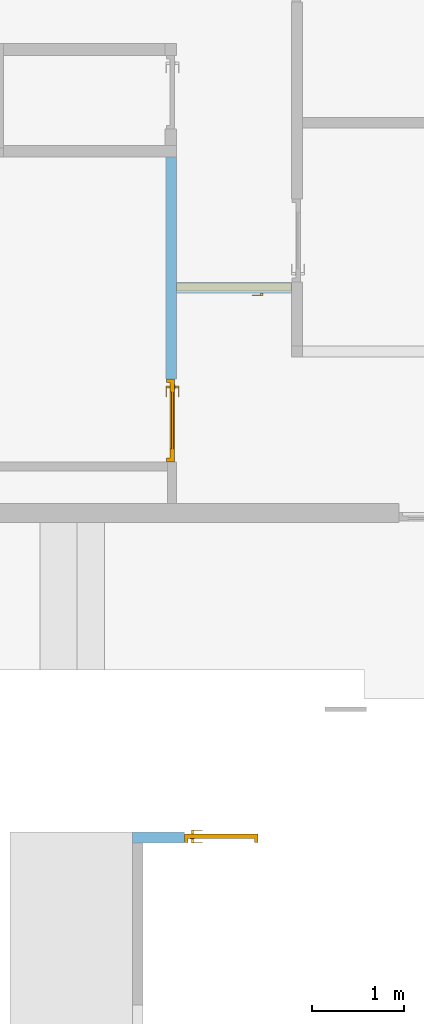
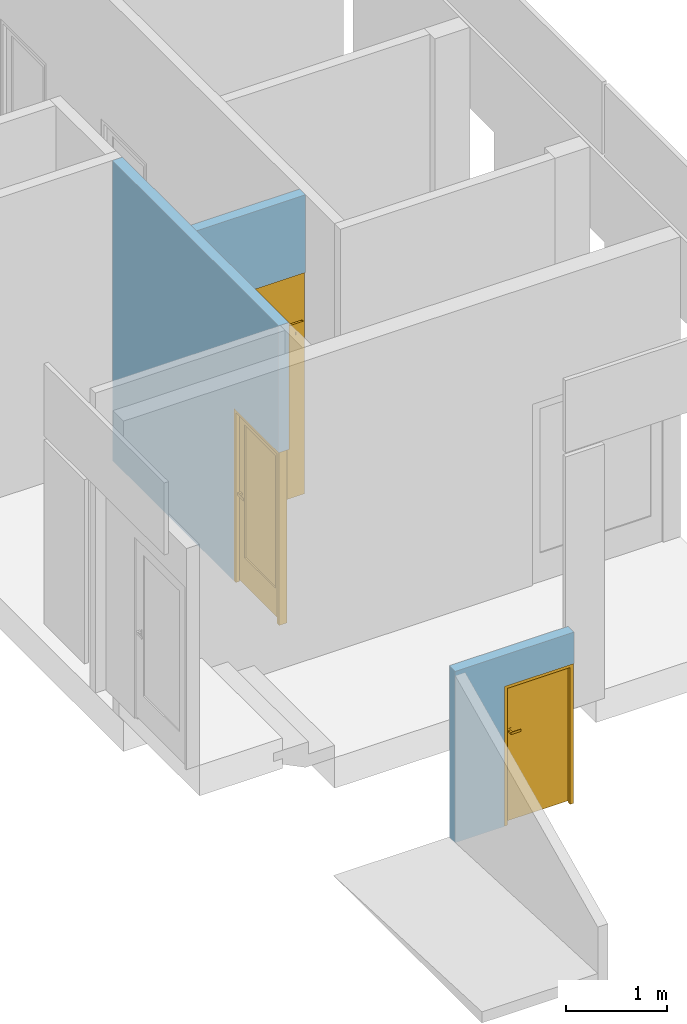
"""IFC2X3 building model written with IfcOpenShell, lengths in millimetres."""

from ifc_helpers import new_model, entity, si_unit, converted_unit, derived_unit, direction, frame, frame_2d, origin, place, context, subcontext, project, spatial, rectangle, extrude, faceted_brep, source, transform, mapped, material, material_list, layer, layer_set, layer_usage, type_object, type_shapes, element, fill, save


model = new_model("IFC2X3")

# Units and contexts
model_context = context("Model", 3, precision=0.01, world=origin(), true_north=direction((6.12303176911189e-17, 1.0)))
body_context = subcontext(model_context, "Body", "Model", "MODEL_VIEW")
ifc_project = project(units=[si_unit("LENGTHUNIT", "METRE", prefix="MILLI"), si_unit("AREAUNIT", "SQUARE_METRE"), si_unit("VOLUMEUNIT", "CUBIC_METRE"), converted_unit("PLANEANGLEUNIT", "DEGREE", entity("IfcRatioMeasure", 0.0174532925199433), si_unit("PLANEANGLEUNIT", "RADIAN"), dimensions=[0, 0, 0, 0, 0, 0, 0]), si_unit("MASSUNIT", "GRAM", prefix="KILO"), derived_unit("MASSDENSITYUNIT", [(si_unit("MASSUNIT", "GRAM", prefix="KILO"), 1), (si_unit("LENGTHUNIT", "METRE"), -3)]), si_unit("TIMEUNIT", "SECOND"), si_unit("FREQUENCYUNIT", "HERTZ"), si_unit("THERMODYNAMICTEMPERATUREUNIT", "DEGREE_CELSIUS"), derived_unit("THERMALTRANSMITTANCEUNIT", [(si_unit("MASSUNIT", "GRAM", prefix="KILO"), 1), (si_unit("THERMODYNAMICTEMPERATUREUNIT", "KELVIN"), -1), (si_unit("TIMEUNIT", "SECOND"), -3)]), derived_unit("VOLUMETRICFLOWRATEUNIT", [(si_unit("LENGTHUNIT", "METRE"), 3), (si_unit("TIMEUNIT", "SECOND"), -1)]), si_unit("ELECTRICCURRENTUNIT", "AMPERE"), si_unit("ELECTRICVOLTAGEUNIT", "VOLT"), si_unit("POWERUNIT", "WATT"), si_unit("FORCEUNIT", "NEWTON", prefix="KILO"), si_unit("ILLUMINANCEUNIT", "LUX"), si_unit("LUMINOUSFLUXUNIT", "LUMEN"), si_unit("LUMINOUSINTENSITYUNIT", "CANDELA"), derived_unit("USERDEFINED", [(si_unit("MASSUNIT", "GRAM", prefix="KILO"), -1), (si_unit("LENGTHUNIT", "METRE"), -2), (si_unit("TIMEUNIT", "SECOND"), 3), (si_unit("LUMINOUSFLUXUNIT", "LUMEN"), 1)]), derived_unit("LINEARVELOCITYUNIT", [(si_unit("LENGTHUNIT", "METRE"), 1), (si_unit("TIMEUNIT", "SECOND"), -1)]), si_unit("PRESSUREUNIT", "PASCAL"), derived_unit("USERDEFINED", [(si_unit("LENGTHUNIT", "METRE"), -2), (si_unit("MASSUNIT", "GRAM", prefix="KILO"), 1), (si_unit("TIMEUNIT", "SECOND"), -2)])], contexts=[model_context])

# Site, building, storey
site_placement = place(None, frame((-151.875543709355, 2715.0, 0.0)))
site = spatial("IfcSite", under=ifc_project, at=site_placement, Name="Surface", CompositionType="ELEMENT")
building_placement = place(site_placement, origin())
building = spatial("IfcBuilding", under=site, at=building_placement, CompositionType="ELEMENT")
storey_1_placement = place(building_placement, frame((0.0, 0.0, -135.0)))
storey_1 = spatial("IfcBuildingStorey", under=building, at=storey_1_placement, Name="uus 1 korrus", CompositionType="ELEMENT", Elevation=-134.99999999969)

# Wall, openings, door
ifc_material_1 = material(Name="__Kips GN13_tava")
ifc_layer_1 = layer(ifc_material_1, 12.5)
ifc_layer_2 = layer(ifc_material_1, 12.5)
ifc_material_2 = material(Name="__Soojustus EPS")
ifc_layer_3 = layer(ifc_material_2, 66.0)
ifc_layer_4 = layer(ifc_material_1, 12.5)
ifc_layer_5 = layer(ifc_material_1, 12.5)
ifc_layer_set = layer_set([ifc_layer_1, ifc_layer_2, ifc_layer_3, ifc_layer_4, ifc_layer_5], Name="Basic Wall:SS-3_Kipssein tava ruumide vahel")
ifc_layer_usage_1 = layer_usage(ifc_layer_set, "AXIS2", "NEGATIVE", 58.0)
wall_type = type_object("IfcWallType", Name="Basic Wall:SS-3_Kipssein tava ruumide vahel", PredefinedType="STANDARD", material=ifc_layer_set)
wall_1_placement = place(storey_1_placement, frame((34223.0849816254, 15470.0, 0.0), z_axis=(0.0, 0.0, 1.0), x_axis=(0.0, 1.0, 0.0)))
wall_1 = element("IfcWallStandardCase", 1, at=wall_1_placement, inside=storey_1, type_object=wall_type, material=ifc_layer_usage_1, Name="Basic Wall:SS-3_Kipssein tava ruumide vahel", ObjectType="Basic Wall:SS-3_Kipssein tava ruumide vahel", context=body_context, shape_type="SweptSolid", body=[
    extrude(rectangle(XDim=3307.97100308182, YDim=116.0, at=frame_2d((1653.98550154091, 3.94351218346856e-13), x_axis=(-1.0, 0.0))), origin(), (0.0, 0.0, 1.0), 3640.0),
])
opening_1_placement = place(wall_1_placement, origin())
element("IfcOpeningElement", 2, at=opening_1_placement, cuts=wall_1, Name="Basic Wall:SS-3_Kipssein tava ruumide vahel", ObjectType="Opening", context=body_context, shape_type="SweptSolid", body=[
    extrude(rectangle(XDim=2099.99999999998, YDim=116.0, at=frame_2d((0.0, 1.13686837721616e-13), x_axis=(0.0, 1.0))), frame((1890.61788269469, -1307.74749360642, 1050.0), z_axis=(0.0, 1.0, 0.0), x_axis=(1.0, 0.0, 0.0)), (0.0, 0.0, 1.0), 1250.0),
])
opening_2_placement = place(wall_1_placement, origin())
element("IfcOpeningElement", 3, at=opening_2_placement, cuts=wall_1, Name="Basic Wall:SS-3_Kipssein tava ruumide vahel", ObjectType="Opening", context=body_context, shape_type="SweptSolid", body=[
    extrude(rectangle(XDim=599.999999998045, YDim=116.0, at=frame_2d((0.0, -1.4210854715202e-13), x_axis=(0.0, 1.0))), frame((1890.61788269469, -1307.74749360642, 2400.0), z_axis=(0.0, 1.0, 0.0), x_axis=(1.0, 0.0, 0.0)), (0.0, 0.0, 1.0), 1250.0),
])
opening_3_placement = place(wall_1_placement, frame((900.0, 58.0, 0.0)))
opening_3 = element("IfcOpeningElement", 4, at=opening_3_placement, cuts=wall_1, Name="Ühepoolsed:SU-02.:1", ObjectType="Opening", context=body_context, shape_type="SweptSolid", body=[
    extrude(rectangle(XDim=2099.99999999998, YDim=900.0, at=frame_2d((1049.99999999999, 450.0), x_axis=(1.0, 0.0))), frame((0.0, 0.0, 0.0), z_axis=(0.0, -1.0, 0.0), x_axis=(0.0, 0.0, 1.0)), (0.0, 0.0, 1.0), 116.0),
])
ifc_material_3 = material(Name="_Alumiiniumprofiil - must")
ifc_material_4 = material(Name="__Uks_hele tamm")
ifc_material_5 = material(Name="Glass")
ifc_material_list_1 = material_list([ifc_material_3, ifc_material_4, ifc_material_5])
ifc_material_list_2 = material_list([ifc_material_3, ifc_material_4, ifc_material_5])
door_style_1 = type_object("IfcDoorStyle", Name="SU-02.", ConstructionType="NOTDEFINED", OperationType="FOLDING_TO_LEFT", ParameterTakesPrecedence=False, Sizeable=False, material=ifc_material_list_2)
shared_shape_1 = source(origin(), body_context, "Body", "Brep", [
    faceted_brep([(100.0, 6.0, 1112.5), (100.0, 44.0, 1112.5), (75.0, 44.0, 1112.5), (75.0, 1.0, 1112.5), (195.0, 1.0, 1112.5), (195.0, 6.0, 1112.5), (100.0, 6.0, 1087.5), (195.0, 6.0, 1087.5), (195.0, 1.0, 1087.5), (75.0, 1.0, 1087.5), (75.0, 44.0, 1087.5), (100.0, 44.0, 1087.5)], [[[0, 1, 2, 3, 4, 5]], [[6, 7, 8, 9, 10, 11]], [[1, 0, 6, 11]], [[2, 1, 11, 10]], [[3, 2, 10, 9]], [[4, 3, 9, 8]], [[5, 4, 8, 7]], [[0, 5, 7, 6]]]),
    faceted_brep([(112.5, 44.0, 1137.5), (112.5, 46.0, 1137.5), (62.5, 46.0, 1137.5), (62.5, 44.0, 1137.5), (112.5, 44.0, 1017.5), (62.5, 44.0, 1017.5), (62.5, 46.0, 1017.5), (112.5, 46.0, 1017.5)], [[[0, 1, 2, 3]], [[4, 5, 6, 7]], [[1, 0, 4, 7]], [[2, 1, 7, 6]], [[3, 2, 6, 5]], [[0, 3, 5, 4]]]),
    faceted_brep([(100.0, 136.0, 1112.5), (195.0, 136.0, 1112.5), (195.0, 141.0, 1112.5), (75.0, 141.0, 1112.5), (75.0, 98.0, 1112.5), (100.0, 98.0, 1112.5), (100.0, 136.0, 1087.5), (100.0, 98.0, 1087.5), (75.0, 98.0, 1087.5), (75.0, 141.0, 1087.5), (195.0, 141.0, 1087.5), (195.0, 136.0, 1087.5)], [[[0, 1, 2, 3, 4, 5]], [[6, 7, 8, 9, 10, 11]], [[5, 7, 6, 0]], [[4, 8, 7, 5]], [[3, 9, 8, 4]], [[2, 10, 9, 3]], [[1, 11, 10, 2]], [[0, 6, 11, 1]]]),
    faceted_brep([(112.5, 98.0, 1137.5), (62.5, 98.0, 1137.5), (62.5, 96.0, 1137.5), (112.5, 96.0, 1137.5), (112.5, 98.0, 1017.5), (112.5, 96.0, 1017.5), (62.5, 96.0, 1017.5), (62.5, 98.0, 1017.5)], [[[0, 1, 2, 3]], [[4, 5, 6, 7]], [[3, 5, 4, 0]], [[2, 6, 5, 3]], [[1, 7, 6, 2]], [[0, 4, 7, 1]]]),
    faceted_brep([(900.0, 6.0, 0.0), (860.0, 6.0, 0.0), (860.0, 46.0, 0.0), (875.0, 46.0, 0.0), (875.0, 96.0, 0.0), (900.0, 96.0, 0.0), (900.0, 6.0, 2100.0), (0.0, 6.0, 2100.0), (0.0, 6.0, 0.0), (40.0, 6.0, 0.0), (40.0, 6.0, 2060.0), (860.0, 6.0, 2060.0), (860.0, 46.0, 2060.0), (40.0, 46.0, 2060.0), (40.0, 46.0, 0.0), (25.0, 46.0, 0.0), (25.0, 46.0, 2075.0), (875.0, 46.0, 2075.0), (875.0, 96.0, 2075.0), (25.0, 96.0, 2075.0), (25.0, 96.0, 0.0), (0.0, 96.0, 0.0), (0.0, 96.0, 2100.0), (900.0, 96.0, 2100.0)], [[[0, 1, 2, 3, 4, 5]], [[1, 0, 6, 7, 8, 9, 10, 11]], [[2, 1, 11, 12]], [[3, 2, 12, 13, 14, 15, 16, 17]], [[4, 3, 17, 18]], [[5, 4, 18, 19, 20, 21, 22, 23]], [[0, 5, 23, 6]], [[8, 7, 22, 21]], [[9, 8, 21, 20, 15, 14]], [[10, 9, 14, 13]], [[16, 15, 20, 19]], [[11, 10, 13, 12]], [[17, 16, 19, 18]], [[7, 6, 23, 22]]]),
    faceted_brep([(760.0, 61.0, 350.0), (760.0, 61.0, 1960.0), (140.0, 61.0, 1960.0), (140.0, 61.0, 350.0), (760.0, 81.0, 350.0), (140.0, 81.0, 350.0), (140.0, 81.0, 1960.0), (760.0, 81.0, 1960.0)], [[[0, 1, 2, 3]], [[4, 5, 6, 7]], [[1, 0, 4, 7]], [[2, 1, 7, 6]], [[3, 2, 6, 5]], [[0, 3, 5, 4]]]),
    faceted_brep([(875.0, 46.0, 20.0), (875.0, 46.0, 2075.0), (25.0, 46.0, 2075.0), (25.0, 46.0, 20.0), (140.0, 46.0, 350.0), (140.0, 46.0, 1960.0), (760.0, 46.0, 1960.0), (760.0, 46.0, 350.0), (875.0, 96.0, 20.0), (25.0, 96.0, 20.0), (25.0, 96.0, 2075.0), (875.0, 96.0, 2075.0), (140.0, 96.0, 1960.0), (140.0, 96.0, 350.0), (760.0, 96.0, 350.0), (760.0, 96.0, 1960.0)], [[[0, 1, 2, 3], [4, 5, 6, 7]], [[8, 9, 10, 11], [12, 13, 14, 15]], [[1, 0, 8, 11]], [[2, 1, 11, 10]], [[3, 2, 10, 9]], [[0, 3, 9, 8]], [[12, 5, 4, 13]], [[13, 4, 7, 14]], [[14, 7, 6, 15]], [[5, 12, 15, 6]]]),
])
type_shapes(door_style_1, [shared_shape_1])
door_1_placement = place(opening_3_placement, frame((0.0, 0.0, 0.0), z_axis=(0.0, 0.0, 1.0), x_axis=(-1.0, 0.0, 0.0)))
door_1 = element("IfcDoor", 5, at=door_1_placement, inside=storey_1, type_object=door_style_1, material=ifc_material_list_1, Name="Ühepoolsed:SU-02.", ObjectType="SU-02.", OverallHeight=2099.99999999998, OverallWidth=899.999999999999, context=body_context, shape_type="MappedRepresentation", body=[
    mapped(shared_shape_1, transform((0.0, 0.0, 0.0), scale=1.0)),
])
fill(opening_3, door_1)

ifc_layer_usage_2 = layer_usage(ifc_layer_set, "AXIS2", "NEGATIVE", 58.0)
wall_2_placement = place(storey_1_placement, frame((35530.8324752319, 17360.6178826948, 2700.0), z_axis=(0.0, 0.0, 1.0), x_axis=(-1.0, 0.0, 0.0)))
wall_2 = element("IfcWallStandardCase", 6, at=wall_2_placement, inside=storey_1, type_object=wall_type, material=ifc_layer_usage_2, Name="Basic Wall:SS-3_Kipssein tava ruumide vahel", ObjectType="Basic Wall:SS-3_Kipssein tava ruumide vahel", context=body_context, shape_type="SweptSolid", body=[
    extrude(rectangle(XDim=1249.74749360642, YDim=116.0, at=frame_2d((624.873746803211, -1.06581410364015e-14), x_axis=(-1.0, 0.0))), origin(), (0.0, 0.0, 1.0), 940.000000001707),
])
opening_4_placement = place(wall_2_placement, frame((0.0, -58.0, -2700.0)))
opening_4 = element("IfcOpeningElement", 7, at=opening_4_placement, cuts=wall_2, Name="Kahepoolsed:SU-24:1", ObjectType="Opening", context=body_context, shape_type="SweptSolid", body=[
    extrude(rectangle(XDim=2099.99999999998, YDim=1250.0, at=frame_2d((1049.99999999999, 625.000000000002), x_axis=(1.0, 0.0))), frame((0.0, 0.0, 0.0), z_axis=(0.0, 1.0, 0.0), x_axis=(0.0, 0.0, 1.0)), (0.0, 0.0, 1.0), 116.0),
])
opening_5_placement = place(wall_2_placement, frame((0.0, -58.0, -600.0)))
opening_5 = element("IfcOpeningElement", 8, at=opening_5_placement, cuts=wall_2, Name="Ühepoolsed2:SU24_ülemine:1", ObjectType="Opening", context=body_context, shape_type="SweptSolid", body=[
    extrude(rectangle(XDim=599.999999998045, YDim=1250.0, at=frame_2d((299.999999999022, 625.000000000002), x_axis=(1.0, 0.0))), frame((0.0, 0.0, 0.0), z_axis=(0.0, 1.0, 0.0), x_axis=(0.0, 0.0, 1.0)), (0.0, 0.0, 1.0), 116.0),
])
ifc_material_6 = material(Name="EP Tavallinen lasi")
ifc_material_list_3 = material_list([ifc_material_3, ifc_material_4, ifc_material_6])
ifc_material_list_4 = material_list([ifc_material_3, ifc_material_4, ifc_material_6])
door_style_2 = type_object("IfcDoorStyle", Name="SU-24", ConstructionType="NOTDEFINED", OperationType="FOLDING_TO_RIGHT", ParameterTakesPrecedence=False, Sizeable=False, material=ifc_material_list_4)
shared_shape_2 = source(origin(), body_context, "Body", "Brep", [
    faceted_brep([(270.260051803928, 6.0, 1100.0), (270.260051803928, 44.0, 1100.0), (245.260051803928, 44.0, 1100.0), (245.260051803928, 1.0, 1100.0), (365.260051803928, 1.0, 1100.0), (365.260051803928, 6.0, 1100.0), (270.260051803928, 6.0, 1075.0), (365.260051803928, 6.0, 1075.0), (365.260051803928, 1.0, 1075.0), (245.260051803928, 1.0, 1075.0), (245.260051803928, 44.0, 1075.0), (270.260051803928, 44.0, 1075.0)], [[[0, 1, 2, 3, 4, 5]], [[6, 7, 8, 9, 10, 11]], [[1, 0, 6, 11]], [[2, 1, 11, 10]], [[3, 2, 10, 9]], [[4, 3, 9, 8]], [[5, 4, 8, 7]], [[0, 5, 7, 6]]]),
    faceted_brep([(282.760051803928, 44.0, 1125.0), (282.760051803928, 46.0, 1125.0), (232.760051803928, 46.0, 1125.0), (232.760051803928, 44.0, 1125.0), (282.760051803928, 44.0, 1005.0), (232.760051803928, 44.0, 1005.0), (232.760051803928, 46.0, 1005.0), (282.760051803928, 46.0, 1005.0)], [[[0, 1, 2, 3]], [[4, 5, 6, 7]], [[1, 0, 4, 7]], [[2, 1, 7, 6]], [[3, 2, 6, 5]], [[0, 3, 5, 4]]]),
    faceted_brep([(270.26005180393, 136.0, 1100.0), (365.260051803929, 136.0, 1100.0), (365.260051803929, 141.0, 1100.0), (245.260051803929, 141.0, 1100.0), (245.26005180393, 98.0, 1100.0), (270.26005180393, 98.0, 1100.0), (270.26005180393, 136.0, 1075.0), (270.26005180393, 98.0, 1075.0), (245.26005180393, 98.0, 1075.0), (245.260051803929, 141.0, 1075.0), (365.260051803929, 141.0, 1075.0), (365.260051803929, 136.0, 1075.0)], [[[0, 1, 2, 3, 4, 5]], [[6, 7, 8, 9, 10, 11]], [[5, 7, 6, 0]], [[4, 8, 7, 5]], [[3, 9, 8, 4]], [[2, 10, 9, 3]], [[1, 11, 10, 2]], [[0, 6, 11, 1]]]),
    faceted_brep([(282.76005180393, 98.0, 1125.0), (232.76005180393, 98.0, 1125.0), (232.76005180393, 96.0, 1125.0), (282.76005180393, 96.0, 1125.0), (282.76005180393, 98.0, 1005.0), (282.76005180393, 96.0, 1005.0), (232.76005180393, 96.0, 1005.0), (232.76005180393, 98.0, 1005.0)], [[[0, 1, 2, 3]], [[4, 5, 6, 7]], [[3, 5, 4, 0]], [[2, 6, 5, 3]], [[1, 7, 6, 2]], [[0, 4, 7, 1]]]),
    faceted_brep([(-27.2399481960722, 6.0, 30.0), (-27.2399481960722, 46.0, 30.0), (-27.2399481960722, 46.0, 20.0), (-27.2399481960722, 46.0, 0.0), (-27.2399481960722, 6.0, 0.0), (1142.76005180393, 6.0, 30.0), (1142.76005180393, 6.0, 0.0), (1142.76005180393, 46.0, 0.0), (1142.76005180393, 46.0, 20.0), (1142.76005180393, 46.0, 30.0), (-42.2399481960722, 46.0, 0.0), (-42.2399481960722, 96.0, 0.0), (1157.76005180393, 96.0, 0.0), (1157.76005180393, 46.0, 0.0), (-42.2399481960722, 96.0, 20.0), (-42.2399481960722, 46.0, 20.0), (1157.76005180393, 96.0, 20.0), (1157.76005180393, 46.0, 20.0)], [[[0, 1, 2, 3, 4]], [[5, 6, 7, 8, 9]], [[4, 6, 5, 0]], [[3, 10, 11, 12, 13, 7, 6, 4]], [[9, 8, 2, 1]], [[0, 5, 9, 1]], [[14, 11, 10, 15]], [[16, 17, 13, 12]], [[15, 2, 8, 17, 16, 14]], [[10, 3, 2, 15]], [[14, 16, 12, 11]], [[17, 8, 7, 13]]]),
    faceted_brep([(-67.239948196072, 6.0, 0.0), (-67.2399481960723, 96.0, 0.0), (-42.2399481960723, 96.0, 0.0), (-42.2399481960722, 46.0, 0.0), (-27.2399481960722, 46.0, 0.0), (-27.239948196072, 6.0, 0.0), (-27.2399481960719, 6.0, 2060.0), (1142.76005180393, 6.0, 2060.0), (1142.76005180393, 6.0, 0.0), (1182.76005180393, 6.0, 0.0), (1182.76005180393, 6.0, 2100.0), (-67.239948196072, 6.0, 2100.0), (-27.239948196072, 46.0, 2060.0), (-42.2399481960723, 46.0, 2075.0), (1157.76005180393, 46.0, 2075.0), (1157.76005180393, 46.0, 0.0), (1142.76005180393, 46.0, 0.0), (1142.76005180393, 46.0, 2060.0), (-42.2399481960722, 96.0, 2075.0), (-67.2399481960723, 96.0, 2100.0), (1182.76005180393, 96.0, 2100.0), (1182.76005180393, 96.0, 0.0), (1157.76005180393, 96.0, 0.0), (1157.76005180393, 96.0, 2075.0)], [[[0, 1, 2, 3, 4, 5]], [[5, 6, 7, 8, 9, 10, 11, 0]], [[4, 12, 6, 5]], [[3, 13, 14, 15, 16, 17, 12, 4]], [[2, 18, 13, 3]], [[1, 19, 20, 21, 22, 23, 18, 2]], [[0, 11, 19, 1]], [[9, 21, 20, 10]], [[8, 16, 15, 22, 21, 9]], [[7, 17, 16, 8]], [[14, 23, 22, 15]], [[6, 12, 17, 7]], [[13, 18, 23, 14]], [[10, 20, 19, 11]]]),
    faceted_brep([(34.760051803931, 96.0, 2000.0), (34.760051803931, 96.0, 1959.0), (34.7600518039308, 46.0, 1959.0), (34.7600518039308, 46.0, 2000.0), (32.760051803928, 96.0, 1959.0), (32.7600518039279, 46.0, 1959.0), (32.7600518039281, 96.0, 2000.0), (32.7600518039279, 46.0, 2000.0), (-42.2399481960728, 46.0, 2075.0), (-42.2399481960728, 46.0, 20.0), (182.760051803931, 46.0, 20.0), (182.760051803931, 46.0, 2075.0), (-42.2399481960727, 96.0, 2075.0), (182.760051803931, 96.0, 2075.0), (182.760051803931, 96.0, 20.0), (-42.2399481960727, 96.0, 20.0)], [[[0, 1, 2, 3]], [[1, 4, 5, 2]], [[4, 6, 7, 5]], [[3, 7, 6, 0]], [[2, 5, 7, 3], [8, 9, 10, 11]], [[0, 6, 4, 1], [12, 13, 14, 15]], [[11, 13, 12, 8]], [[10, 14, 13, 11]], [[9, 15, 14, 10]], [[8, 12, 15, 9]]], outer=[[True], [True], [True], [True], [False, True], [False, True], [True], [True], [True], [True]]),
    faceted_brep([(1057.76005180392, 61.0, 350.0), (1057.76005180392, 61.0, 2000.0), (282.760051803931, 61.0, 2000.0), (282.760051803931, 61.0, 350.0), (1057.76005180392, 81.0, 350.0), (282.760051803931, 81.0, 350.0), (282.760051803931, 81.0, 2000.0), (1057.76005180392, 81.0, 2000.0)], [[[0, 1, 2, 3]], [[4, 5, 6, 7]], [[3, 5, 4, 0]], [[2, 6, 5, 3]], [[1, 7, 6, 2]], [[0, 4, 7, 1]]]),
    faceted_brep([(182.760051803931, 46.0, 2075.0), (182.760051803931, 46.0, 20.0), (1157.76005180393, 46.0, 20.0), (1157.76005180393, 46.0, 2075.0), (1057.76005180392, 46.0, 350.0), (282.760051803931, 46.0, 350.0), (282.760051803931, 46.0, 2000.0), (1057.76005180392, 46.0, 2000.0), (182.760051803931, 96.0, 2075.0), (1157.76005180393, 96.0, 2075.0), (1157.76005180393, 96.0, 20.0), (182.760051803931, 96.0, 20.0), (1057.76005180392, 96.0, 2000.0), (282.760051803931, 96.0, 2000.0), (282.760051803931, 96.0, 350.0), (1057.76005180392, 96.0, 350.0)], [[[0, 1, 2, 3], [4, 5, 6, 7]], [[8, 9, 10, 11], [12, 13, 14, 15]], [[3, 9, 8, 0]], [[2, 10, 9, 3]], [[1, 11, 10, 2]], [[0, 8, 11, 1]], [[12, 15, 4, 7]], [[15, 14, 5, 4]], [[14, 13, 6, 5]], [[7, 6, 13, 12]]]),
])
type_shapes(door_style_2, [shared_shape_2])
door_2_placement = place(opening_4_placement, frame((67.2399481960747, 0.0, 0.0)))
door_2 = element("IfcDoor", 9, at=door_2_placement, inside=storey_1, type_object=door_style_2, material=ifc_material_list_3, Name="Kahepoolsed:SU-24", ObjectType="SU-24", OverallHeight=2099.99999999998, OverallWidth=1250.0, context=body_context, shape_type="MappedRepresentation", body=[
    mapped(shared_shape_2, transform((0.0, 0.0, 0.0), scale=1.0)),
])
fill(opening_4, door_2)

# Storey
storey_2_placement = place(building_placement, origin())
storey_2 = spatial("IfcBuildingStorey", under=building, at=storey_2_placement, Name="1 korrus", CompositionType="ELEMENT", Elevation=3.0969999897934e-10)

# Door
door_style_3 = type_object("IfcDoorStyle", Name="SU24_ülemine", ConstructionType="NOTDEFINED", OperationType="NOTDEFINED", ParameterTakesPrecedence=False, Sizeable=False, material=ifc_material_4)
shared_shape_3 = source(origin(), body_context, "Body", "Brep", [
    faceted_brep([(0.0, 6.0, 0.0), (0.0, 96.0, 0.0), (25.0, 96.0, 0.0), (25.0, 46.0, 0.0), (40.0, 46.0, 0.0), (40.0, 6.0, 0.0), (40.0, 6.0, 560.0), (1210.0, 6.0, 560.0), (1210.0, 6.0, 0.0), (1250.0, 6.0, 0.0), (1250.0, 6.0, 600.0), (0.0, 6.0, 600.0), (40.0, 46.0, 560.0), (25.0, 46.0, 575.0), (1225.0, 46.0, 575.0), (1225.0, 46.0, 0.0), (1210.0, 46.0, 0.0), (1210.0, 46.0, 560.0), (25.0, 96.0, 575.0), (0.0, 96.0, 600.0), (1250.0, 96.0, 600.0), (1250.0, 96.0, 0.0), (1225.0, 96.0, 0.0), (1225.0, 96.0, 575.0)], [[[0, 1, 2, 3, 4, 5]], [[5, 6, 7, 8, 9, 10, 11, 0]], [[4, 12, 6, 5]], [[3, 13, 14, 15, 16, 17, 12, 4]], [[2, 18, 13, 3]], [[1, 19, 20, 21, 22, 23, 18, 2]], [[0, 11, 19, 1]], [[6, 12, 17, 7]], [[13, 18, 23, 14]], [[10, 20, 19, 11]], [[8, 16, 15, 22, 21, 9]], [[7, 17, 16, 8]], [[14, 23, 22, 15]], [[9, 21, 20, 10]]]),
    faceted_brep([(1225.0, 46.0, 575.0), (25.0, 46.0, 575.0), (25.0, 46.0, 20.0), (1225.0, 46.0, 20.0), (1225.0, 96.0, 575.0), (1225.0, 96.0, 20.0), (25.0, 96.0, 20.0), (25.0, 96.0, 575.0)], [[[0, 1, 2, 3]], [[4, 5, 6, 7]], [[3, 5, 4, 0]], [[2, 6, 5, 3]], [[1, 7, 6, 2]], [[0, 4, 7, 1]]]),
])
type_shapes(door_style_3, [shared_shape_3])
door_3_placement = place(opening_5_placement, origin())
door_3 = element("IfcDoor", 10, at=door_3_placement, inside=storey_2, type_object=door_style_3, material=ifc_material_4, Name="Ühepoolsed2:SU24_ülemine", ObjectType="SU24_ülemine", OverallHeight=599.999999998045, OverallWidth=1250.0, context=body_context, shape_type="MappedRepresentation", body=[
    mapped(shared_shape_3, transform((0.0, 0.0, 0.0), scale=1.0)),
])

fill(opening_5, door_3)

# Wall, opening, door
ifc_layer_usage_3 = layer_usage(ifc_layer_set, "AXIS2", "POSITIVE", -58.0)
wall_3_placement = place(storey_1_placement, frame((33802.30075757, 11392.0, 0.0)))
wall_3 = element("IfcWallStandardCase", 11, at=wall_3_placement, inside=storey_1, type_object=wall_type, material=ifc_layer_usage_3, Name="Basic Wall:SS-3_Kipssein tava ruumide vahel", ObjectType="Basic Wall:SS-3_Kipssein tava ruumide vahel", context=body_context, shape_type="SweptSolid", body=[
    extrude(rectangle(XDim=1364.31551062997, YDim=116.0, at=frame_2d((682.157755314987, -1.06581410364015e-14), x_axis=(-1.0, 0.0))), origin(), (0.0, 0.0, 1.0), 2080.0),
])
opening_6_placement = place(wall_3_placement, frame((564.315510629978, -58.0, 0.0)))
opening_6 = element("IfcOpeningElement", 12, at=opening_6_placement, cuts=wall_3, Name="Ühepoolsed:SU-20:1", ObjectType="Opening", context=body_context, shape_type="SweptSolid", body=[
    extrude(rectangle(XDim=1699.99999999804, YDim=800.0, at=frame_2d((849.999999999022, 400.0), x_axis=(1.0, 0.0))), frame((0.0, 0.0, 0.0), z_axis=(0.0, 1.0, 0.0), x_axis=(0.0, 0.0, 1.0)), (0.0, 0.0, 1.0), 116.0),
])
ifc_material_7 = material(Name="Steel/Aluminium")
ifc_material_list_5 = material_list([ifc_material_3, ifc_material_7])
ifc_material_list_6 = material_list([ifc_material_3, ifc_material_7])
door_style_4 = type_object("IfcDoorStyle", Name="SU-20", ConstructionType="NOTDEFINED", OperationType="FOLDING_TO_LEFT", ParameterTakesPrecedence=False, Sizeable=False, material=ifc_material_list_6)
shared_shape_4 = source(origin(), body_context, "Body", "Brep", [
    faceted_brep([(100.0, 6.0, 1112.5), (100.0, 44.0, 1112.5), (75.0, 44.0, 1112.5), (75.0, 1.0, 1112.5), (195.0, 1.0, 1112.5), (195.0, 6.0, 1112.5), (100.0, 6.0, 1087.5), (195.0, 6.0, 1087.5), (195.0, 1.0, 1087.5), (75.0, 1.0, 1087.5), (75.0, 44.0, 1087.5), (100.0, 44.0, 1087.5)], [[[0, 1, 2, 3, 4, 5]], [[6, 7, 8, 9, 10, 11]], [[1, 0, 6, 11]], [[2, 1, 11, 10]], [[3, 2, 10, 9]], [[4, 3, 9, 8]], [[5, 4, 8, 7]], [[0, 5, 7, 6]]]),
    faceted_brep([(112.5, 44.0, 1137.5), (112.5, 46.0, 1137.5), (62.5000000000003, 46.0, 1137.5), (62.5000000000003, 44.0, 1137.5), (112.5, 44.0, 1017.5), (62.5000000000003, 44.0, 1017.5), (62.5000000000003, 46.0, 1017.5), (112.5, 46.0, 1017.5)], [[[0, 1, 2, 3]], [[4, 5, 6, 7]], [[1, 0, 4, 7]], [[2, 1, 7, 6]], [[3, 2, 6, 5]], [[0, 3, 5, 4]]]),
    faceted_brep([(100.0, 136.0, 1112.5), (195.0, 136.0, 1112.5), (195.0, 141.0, 1112.5), (75.0, 141.0, 1112.5), (75.0, 98.0, 1112.5), (100.0, 98.0, 1112.5), (100.0, 136.0, 1087.5), (100.0, 98.0, 1087.5), (75.0, 98.0, 1087.5), (75.0, 141.0, 1087.5), (195.0, 141.0, 1087.5), (195.0, 136.0, 1087.5)], [[[0, 1, 2, 3, 4, 5]], [[6, 7, 8, 9, 10, 11]], [[5, 7, 6, 0]], [[4, 8, 7, 5]], [[3, 9, 8, 4]], [[2, 10, 9, 3]], [[1, 11, 10, 2]], [[0, 6, 11, 1]]]),
    faceted_brep([(112.5, 98.0, 1137.5), (62.5000000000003, 98.0, 1137.5), (62.5000000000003, 96.0, 1137.5), (112.5, 96.0, 1137.5), (112.5, 98.0, 1017.5), (112.5, 96.0, 1017.5), (62.5000000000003, 96.0, 1017.5), (62.5000000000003, 98.0, 1017.5)], [[[0, 1, 2, 3]], [[4, 5, 6, 7]], [[3, 5, 4, 0]], [[2, 6, 5, 3]], [[1, 7, 6, 2]], [[0, 4, 7, 1]]]),
    faceted_brep([(800.0, 6.0, 0.0), (760.0, 6.0, 0.0), (760.0, 46.0, 0.0), (775.0, 46.0, 0.0), (775.0, 96.0, 0.0), (800.0, 96.0, 0.0), (800.0, 6.0, 1700.0), (0.0, 6.0, 1700.0), (0.0, 6.0, 0.0), (40.0, 6.0, 0.0), (40.0, 6.0, 1660.0), (760.0, 6.0, 1660.0), (760.0, 46.0, 1660.0), (40.0, 46.0, 1660.0), (40.0, 46.0, 0.0), (25.0, 46.0, 0.0), (25.0, 46.0, 1675.0), (775.0, 46.0, 1675.0), (775.0, 96.0, 1675.0), (25.0, 96.0, 1675.0), (25.0, 96.0, 0.0), (0.0, 96.0, 0.0), (0.0, 96.0, 1700.0), (800.0, 96.0, 1700.0)], [[[0, 1, 2, 3, 4, 5]], [[1, 0, 6, 7, 8, 9, 10, 11]], [[2, 1, 11, 12]], [[3, 2, 12, 13, 14, 15, 16, 17]], [[4, 3, 17, 18]], [[5, 4, 18, 19, 20, 21, 22, 23]], [[0, 5, 23, 6]], [[8, 7, 22, 21]], [[9, 8, 21, 20, 15, 14]], [[10, 9, 14, 13]], [[16, 15, 20, 19]], [[11, 10, 13, 12]], [[17, 16, 19, 18]], [[7, 6, 23, 22]]]),
    faceted_brep([(25.0, 46.0, 1675.0), (25.0, 46.0, 20.0), (775.0, 46.0, 20.0), (775.0, 46.0, 1675.0), (25.0, 96.0, 1675.0), (775.0, 96.0, 1675.0), (775.0, 96.0, 20.0), (25.0, 96.0, 20.0)], [[[0, 1, 2, 3]], [[4, 5, 6, 7]], [[1, 0, 4, 7]], [[2, 1, 7, 6]], [[3, 2, 6, 5]], [[0, 3, 5, 4]]]),
])
type_shapes(door_style_4, [shared_shape_4])
door_4_placement = place(opening_6_placement, origin())
door_4 = element("IfcDoor", 13, at=door_4_placement, inside=storey_1, type_object=door_style_4, material=ifc_material_list_5, Name="Ühepoolsed:SU-20", ObjectType="SU-20", OverallHeight=1699.99999999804, OverallWidth=800.0, context=body_context, shape_type="MappedRepresentation", body=[
    mapped(shared_shape_4, transform((0.0, 0.0, 0.0), scale=1.0)),
])
fill(opening_6, door_4)

save(model, "model.ifc")
